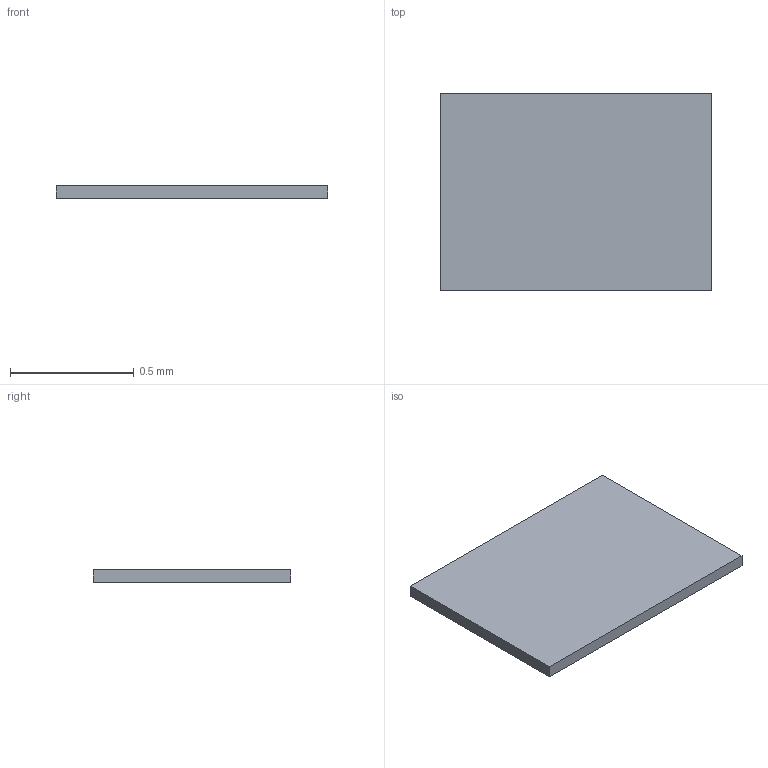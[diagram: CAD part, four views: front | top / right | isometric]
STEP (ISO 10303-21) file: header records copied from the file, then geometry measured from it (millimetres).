
FILE_DESCRIPTION(/* description */ ('STEP AP242 Edition 2','CAx-IF Rec.Pracs.---Representation and Presentation of Product Manufacturing Information (PMI)---4.0---2014-10-13','CAx-IF Rec.Pracs.---3D Tessellated Geometry---0.4---2014-09-14','2;1','CAx-IF Rec.Pracs.---User Defined Attributes---1.5---2016-08-15'),/* implementation_level */ '2;1');
FILE_NAME(/* name */ 'Drone Layout - Surface 386',/* time_stamp */ '2026-10-04T22:22:58Z',/* author */ (''),/* organization */ (''),/* preprocessor_version */ 'ST-DEVELOPER v20',/* originating_system */ 'ONSHAPE BY PTC INC, 1.221',/* authorisation */ ' ');
FILE_SCHEMA (('AP242_MANAGED_MODEL_BASED_3D_ENGINEERING_MIM_LF { 1 0 10303 442 3 1 4 }'));
Length unit declared in the file: metre
Products named in the file (1): RES0603 v1 (1):1__Body1
Bounding box: 1.1 x 0.8 x 0.05 mm (x, y, z)
Volume: 0 mm3; surface area: 1.9 mm2
Topology: 1 solids, 1 shells, 6 faces, 12 edges, 8 vertices
Faces by surface type: plane 6
Entity records: 169 total; most frequent: CARTESIAN_POINT 27, DIRECTION 26, ORIENTED_EDGE 24, EDGE_CURVE 12, LINE 12, VECTOR 12, VERTEX_POINT 8, AXIS2_PLACEMENT_3D 7
